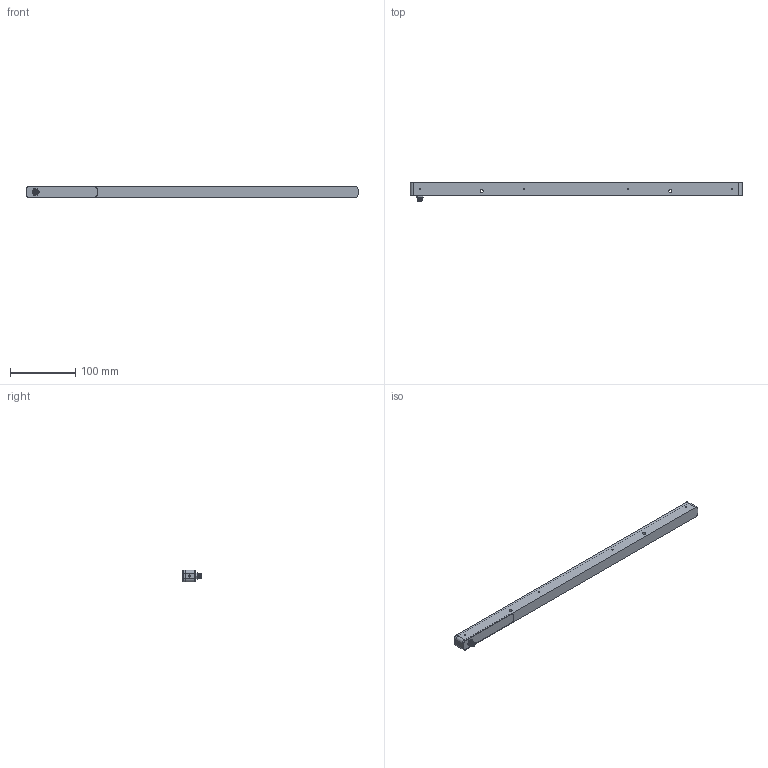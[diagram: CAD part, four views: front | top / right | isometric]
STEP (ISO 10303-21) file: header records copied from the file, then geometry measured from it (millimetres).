
FILE_DESCRIPTION (( 'STEP AP214' ), '1' );
FILE_NAME ('01473.01 Basisbaugruppe SBL-0150 Step18082020.STEP', '2020-08-18T13:07:32', ( '' ), ( '' ), 'SwSTEP 2.0', 'SolidWorks 2013', '' );
FILE_SCHEMA (( 'AUTOMOTIVE_DESIGN' ));
Length unit declared in the file: millimetre
Products named in the file (1): 01473.01 Basisbaugruppe SBL-0150 Step18082020
Bounding box: 510 x 28 x 18 mm (x, y, z)
Surface area: 47293.5 mm2 (no closed solid volume)
Topology: 0 solids, 9 shells, 79 faces, 235 edges, 167 vertices
Faces by surface type: cylinder 39, plane 33, cone 5, bspline 2
Full cylindrical faces by diameter (mm): 1 x4, 2.05 x8, 3.3 x2, 4.8 x2, 5.8 x1, 6.5 x2, 6.9 x1, 8 x1
Entity records: 4070 total; most frequent: CARTESIAN_POINT 1186, DIRECTION 436, ORIENTED_EDGE 317, EDGE_CURVE 198, AXIS2_PLACEMENT_3D 175, VERTEX_POINT 158, EDGE_LOOP 127, FACE_OUTER_BOUND 102
